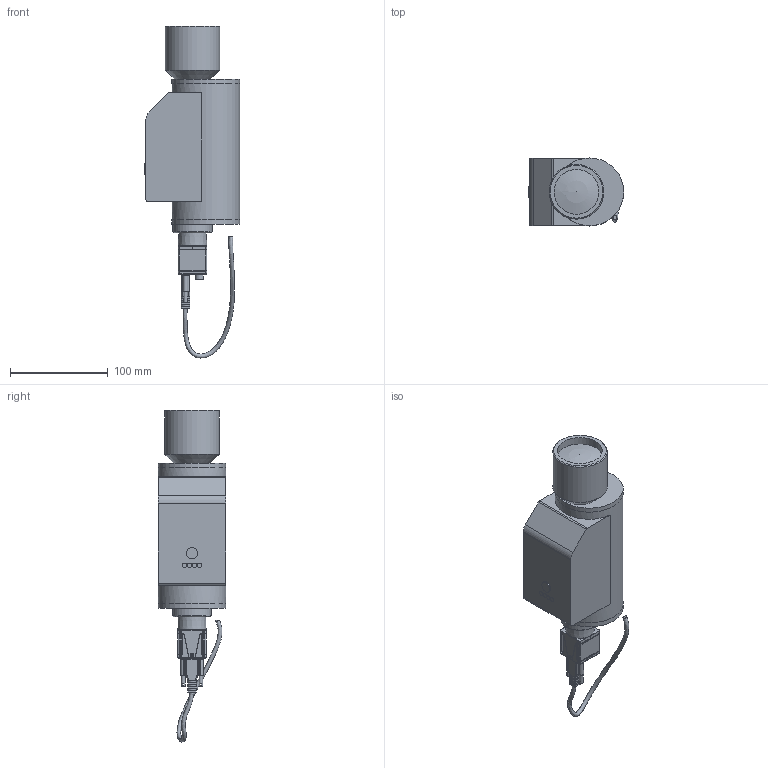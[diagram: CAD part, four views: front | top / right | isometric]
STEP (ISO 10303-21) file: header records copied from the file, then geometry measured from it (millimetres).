
FILE_DESCRIPTION(/* description */ (''),/* implementation_level */ '2;1');
FILE_NAME(/* name */ '\\SERVEUR-09\Entreprise\Bureau-Technique\Produits Web\videos\optiques\MA735-Z4-002.stp',/* time_stamp */ '2018-10-01T08:57:25+02:00',/* author */ ('ms'),/* organization */ ('Marcel Aubert'),/* preprocessor_version */ 'ST-DEVELOPER v17',/* originating_system */ 'Autodesk Inventor 2019',/* authorisation */ '');
FILE_SCHEMA (('AUTOMOTIVE_DESIGN { 1 0 10303 214 3 1 1 }'));
Length unit declared in the file: millimetre
Products named in the file (1): Pièce1
Bounding box: 97.5 x 69.5 x 340.08 mm (x, y, z)
Volume: 966852.9 mm3; surface area: 79225 mm2
Topology: 1 solids, 8 shells, 850 faces, 2270 edges, 1479 vertices
Faces by surface type: plane 529, cylinder 217, cone 40, bspline 35, torus 26, sphere 3
Full cylindrical faces by diameter (mm): 0.4 x8, 1.6 x2, 2.5 x4, 3 x2, 3.2 x1, 3.9 x2, 4.5 x4, 6.8 x1, 8.5 x1, 8.6 x3, 10 x1, 10.6 x1, 11.5 x1, 20 x1, 24.8 x1, 26 x1, 40 x1, 46 x1, 56 x1, 69.5 x3
Entity records: 39571 total; most frequent: CARTESIAN_POINT 17131, ORIENTED_EDGE 4526, DIRECTION 4442, EDGE_CURVE 2263, LINE 1522, VECTOR 1522, VERTEX_POINT 1481, AXIS2_PLACEMENT_3D 1460
